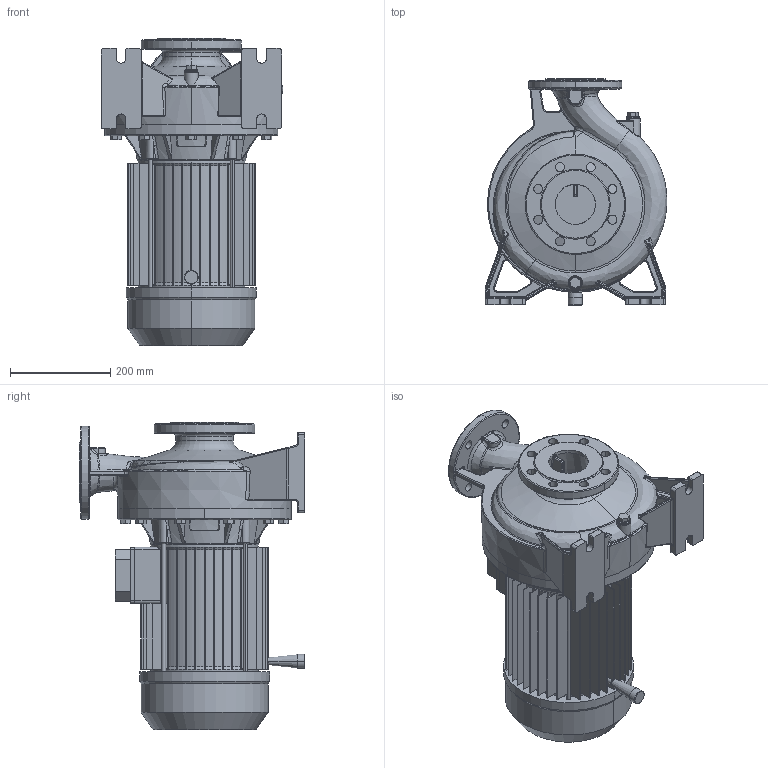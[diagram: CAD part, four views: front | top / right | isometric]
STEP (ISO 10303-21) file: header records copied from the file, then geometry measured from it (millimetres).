
FILE_DESCRIPTION((''),'2;1');
FILE_NAME('3M4_65-250_5_5_IE2_ASM','2012-03-14T',('Rosa'),('"Ebara Pumps Europe +39.444.706811"'),'PRO/ENGINEER BY PARAMETRIC TECHNOLOGY CORPORATION, 2009360','PRO/ENGINEER BY PARAMETRIC TECHNOLOGY CORPORATION, 2009360','');
FILE_SCHEMA(('AUTOMOTIVE_DESIGN { 1 0 10303 214 1 1 1 1 }'));
Length unit declared in the file: millimetre
Products named in the file (5): CORPO_POMPA_65-250; SUPPORTO_3M_266_132; MEC_132X170_190_IE2; 72183; 3M4_65-250_5_5_IE2_ASM
Assembly tree (4 placements, depth 2):
  3M4_65-250_5_5_IE2_ASM
    CORPO_POMPA_65-250
    SUPPORTO_3M_266_132
    MEC_132X170_190_IE2
    72183
Bounding box: 362.46 x 450 x 612 mm (x, y, z)
Volume: 21212488.3 mm3; surface area: 1886351.6 mm2
Topology: 4 solids, 4 shells, 1317 faces, 3155 edges, 1879 vertices
Faces by surface type: plane 491, cylinder 310, bspline 263, torus 121, cone 103, sphere 29
Entity records: 62433 total; most frequent: CARTESIAN_POINT 23078, ORIENTED_EDGE 6310, DIRECTION 5634, EDGE_CURVE 3155, PRESENTATION_STYLE_ASSIGNMENT 3144, STYLED_ITEM 3144, CURVE_STYLE 3141, AXIS2_PLACEMENT_3D 2196
